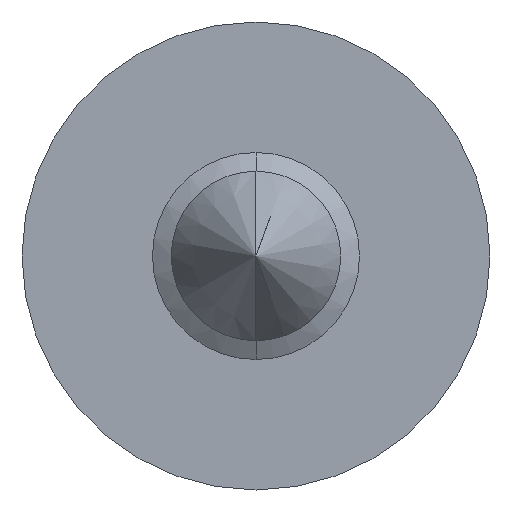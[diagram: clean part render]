
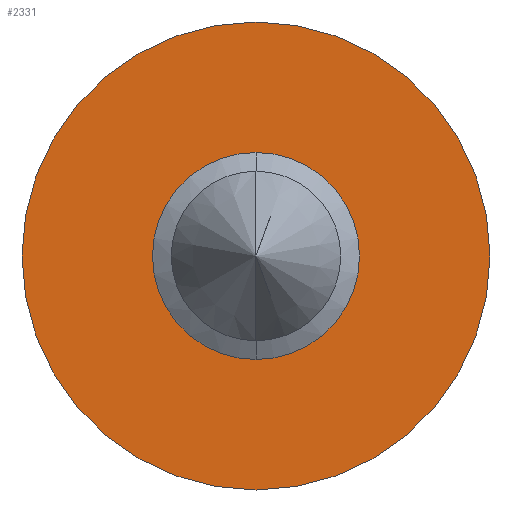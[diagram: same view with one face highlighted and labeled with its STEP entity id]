
A CAD part, left-side view. The second image highlights one B-rep face of the part: STEP entity #2331.
In plain terms, the highlighted planar face has unit normal (-1, 0, 0).
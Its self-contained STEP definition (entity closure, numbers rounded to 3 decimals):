
#107 = DIRECTION ( 'NONE',  ( 1., 0., 0. ) ) ;
#145 = EDGE_LOOP ( 'NONE', ( #3360, #2584 ) ) ;
#299 = DIRECTION ( 'NONE',  ( -1., 0., 0. ) ) ;
#319 = CARTESIAN_POINT ( 'NONE',  ( -5.08, 0., 0.225 ) ) ;
#351 = CARTESIAN_POINT ( 'NONE',  ( -5.08, 0., 0. ) ) ;
#414 = ORIENTED_EDGE ( 'NONE', *, *, #1077, .F. ) ;
#419 = CIRCLE ( 'NONE', #894, 0.225 ) ;
#571 = DIRECTION ( 'NONE',  ( 0., 0., 1. ) ) ;
#639 = CARTESIAN_POINT ( 'NONE',  ( -5.08, 0., 0. ) ) ;
#894 = AXIS2_PLACEMENT_3D ( 'NONE', #351, #299, #2303 ) ;
#1077 = EDGE_CURVE ( 'NONE', #3027, #2034, #419, .T. ) ;
#1141 = CIRCLE ( 'NONE', #3258, 0.225 ) ;
#1152 = DIRECTION ( 'NONE',  ( -1., 0., 0. ) ) ;
#1235 = EDGE_CURVE ( 'NONE', #2631, #3276, #1985, .T. ) ;
#1273 = DIRECTION ( 'NONE',  ( 0., 0., -1. ) ) ;
#1430 = EDGE_CURVE ( 'NONE', #2034, #3027, #1141, .T. ) ;
#1510 = CARTESIAN_POINT ( 'NONE',  ( -5.08, 0., 0.508 ) ) ;
#1567 = PLANE ( 'NONE',  #3082 ) ;
#1775 = ORIENTED_EDGE ( 'NONE', *, *, #1430, .F. ) ;
#1820 = CARTESIAN_POINT ( 'NONE',  ( -5.08, 0., 0. ) ) ;
#1838 = EDGE_LOOP ( 'NONE', ( #1775, #414 ) ) ;
#1902 = CARTESIAN_POINT ( 'NONE',  ( -5.08, -0.514, 0.514 ) ) ;
#1938 = CIRCLE ( 'NONE', #2887, 0.508 ) ;
#1985 = CIRCLE ( 'NONE', #2459, 0.508 ) ;
#2034 = VERTEX_POINT ( 'NONE', #319 ) ;
#2102 = CARTESIAN_POINT ( 'NONE',  ( -5.08, 0., -0.508 ) ) ;
#2124 = DIRECTION ( 'NONE',  ( 1., 0., 0. ) ) ;
#2154 = EDGE_CURVE ( 'NONE', #3276, #2631, #1938, .T. ) ;
#2303 = DIRECTION ( 'NONE',  ( 0., 0., 1. ) ) ;
#2331 = ADVANCED_FACE ( 'NONE', ( #3015, #3328 ), #1567, .F. ) ;
#2459 = AXIS2_PLACEMENT_3D ( 'NONE', #1820, #107, #1273 ) ;
#2584 = ORIENTED_EDGE ( 'NONE', *, *, #1235, .F. ) ;
#2624 = CARTESIAN_POINT ( 'NONE',  ( -5.08, 0., -0.225 ) ) ;
#2631 = VERTEX_POINT ( 'NONE', #1510 ) ;
#2704 = DIRECTION ( 'NONE',  ( 1., 0., 0. ) ) ;
#2785 = DIRECTION ( 'NONE',  ( 0., 0., -1. ) ) ;
#2887 = AXIS2_PLACEMENT_3D ( 'NONE', #639, #2124, #3285 ) ;
#3015 = FACE_BOUND ( 'NONE', #1838, .T. ) ;
#3027 = VERTEX_POINT ( 'NONE', #2624 ) ;
#3082 = AXIS2_PLACEMENT_3D ( 'NONE', #1902, #2704, #2785 ) ;
#3159 = CARTESIAN_POINT ( 'NONE',  ( -5.08, 0., 0. ) ) ;
#3258 = AXIS2_PLACEMENT_3D ( 'NONE', #3159, #1152, #571 ) ;
#3276 = VERTEX_POINT ( 'NONE', #2102 ) ;
#3285 = DIRECTION ( 'NONE',  ( 0., 0., -1. ) ) ;
#3328 = FACE_OUTER_BOUND ( 'NONE', #145, .T. ) ;
#3360 = ORIENTED_EDGE ( 'NONE', *, *, #2154, .F. ) ;
